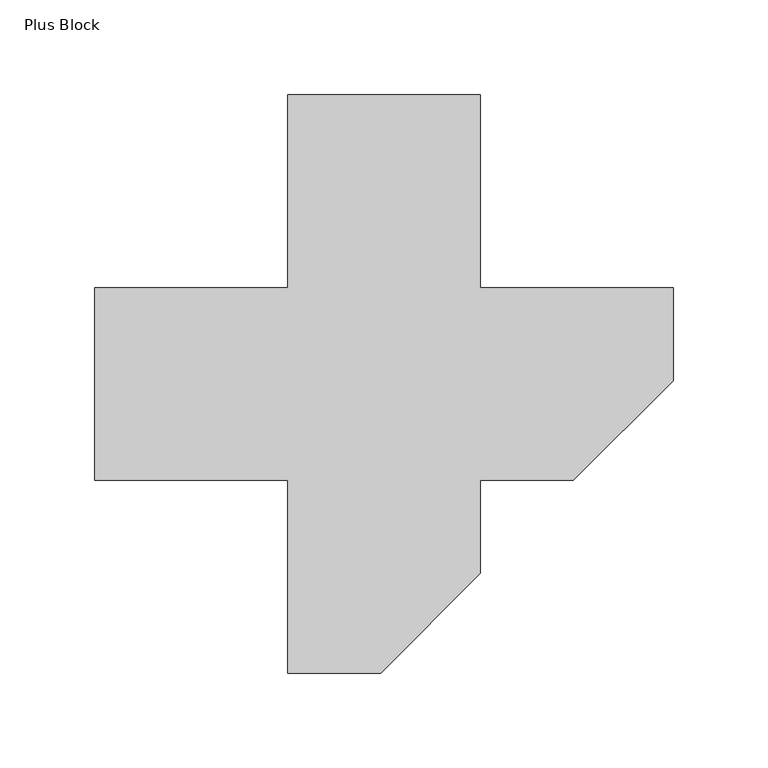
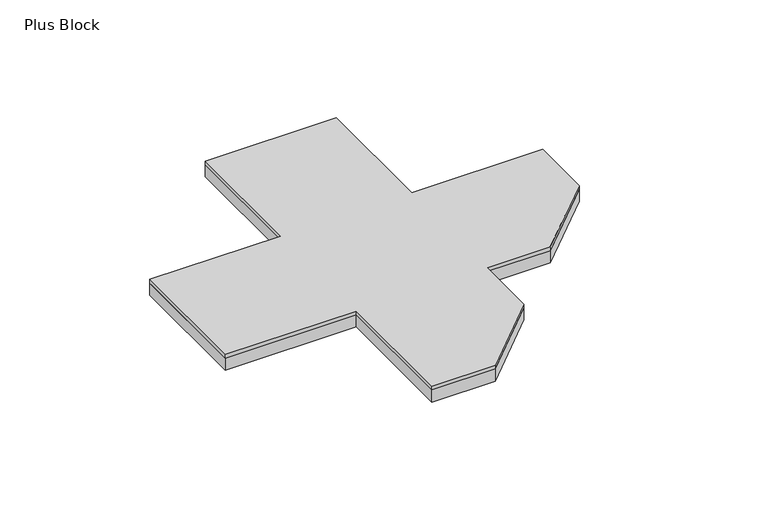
"""IFC4 building model written with IfcOpenShell, lengths in millimetres: proxy geometry, FilzFelt_Plus_Block : Plus Block."""

from ifc_helpers import new_model, si_unit, frame, origin, origin_with_axes, place, context, project, spatial, polyline, outline, extrude, source, transform, mapped, element, save


def plus_block_650cdf51(model_context):
    return source(origin(), model_context, "Body", "SweptSolid", [
        extrude(outline(polyline([(50.8333333, 50.8333333), (152.5, 50.8333333), (152.5, 1.7802978), (99.8863689, -50.8333333), (50.8333333, -50.8333333), (50.8333333, -99.8863689), (-1.7802978, -152.5), (-50.8333333, -152.5), (-50.8333333, -50.8333333), (-152.5, -50.8333333), (-152.5, 50.8333333), (-50.8333333, 50.8333333), (-50.8333333, 152.5), (50.8333333, 152.5), (50.8333333, 50.8333333)])), frame((0.0, 0.0, 10.0210937), z_axis=(0.0, 0.0, 1.0), x_axis=(1.0, 0.0, 0.0)), (0.0, 0.0, 1.0), 2.9765625),
        extrude(outline(polyline([(-152.5, -50.8333333), (-152.5, 50.8333333), (-50.8333333, 50.8333333), (-50.8333333, 152.5), (50.8333333, 152.5), (50.8333333, 50.8333333), (152.5, 50.8333333), (152.5, 1.7802978), (99.8863689, -50.8333333), (50.8333333, -50.8333333), (50.8333333, -99.8863689), (-1.7802978, -152.5), (-50.8333333, -152.5), (-50.8333333, -50.8333333), (-152.5, -50.8333333)])), origin_with_axes(), (0.0, 0.0, 1.0), 10.0210938),
    ])


if __name__ == "__main__":
    model = new_model("IFC4")
    model_context = context("Model", 3, world=origin())
    ifc_project = project(units=[si_unit("LENGTHUNIT", "METRE", prefix="MILLI")], contexts=[model_context])
    site = spatial("IfcSite", under=ifc_project)
    building = spatial("IfcBuilding", under=site)
    placement = place(None, origin())
    plus_block_shape = plus_block_650cdf51(model_context)
    element("IfcBuildingElementProxy", 1, Name="FilzFelt_Plus_Block : Plus Block", ObjectType="FilzFelt_Plus_Block : Plus Block", at=placement, inside=building, context=model_context, shape_type="MappedRepresentation", body=[
        mapped(plus_block_shape, transform((0.0, 0.0, 0.0), x_axis=(1.0, 0.0, 0.0), y_axis=(0.0, 1.0, 0.0), z_axis=(0.0, 0.0, 1.0))),
    ])
    save(model, "model.ifc")
